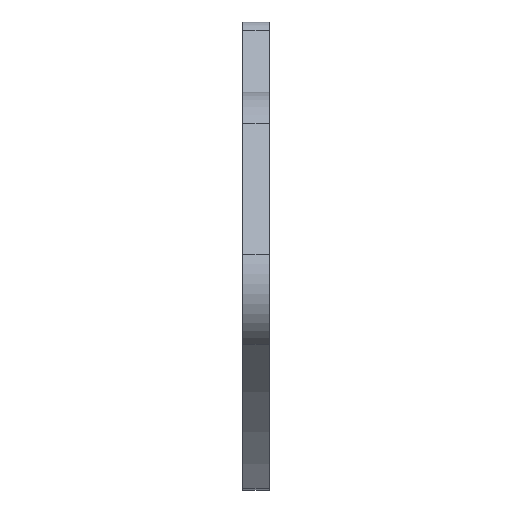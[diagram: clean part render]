
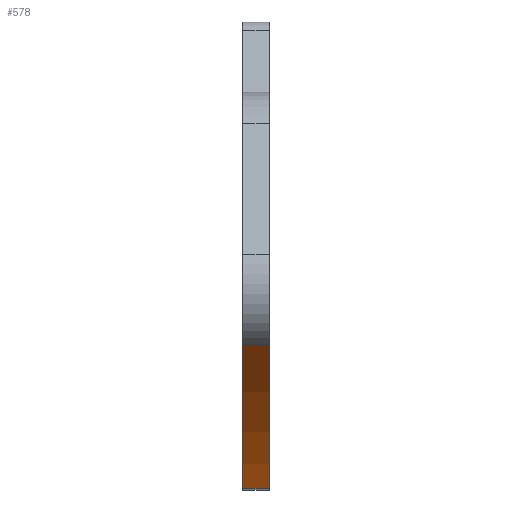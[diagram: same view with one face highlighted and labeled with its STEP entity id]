
A CAD part, left-side view. The second image highlights one B-rep face of the part: STEP entity #578.
In plain terms, the highlighted cylindrical face has radius 372 mm (diameter 744 mm), a partial arc.
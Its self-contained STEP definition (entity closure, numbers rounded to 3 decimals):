
#455=CYLINDRICAL_SURFACE('',#5549,372.);
#507=CIRCLE('',#5523,372.);
#519=CIRCLE('',#5536,372.);
#578=ADVANCED_FACE('',(#943),#455,.T.);
#943=FACE_OUTER_BOUND('',#1264,.T.);
#1264=EDGE_LOOP('',(#2539,#2540,#2541,#2542));
#1623=LINE('',#9211,#1900);
#1624=LINE('',#9212,#1901);
#1900=VECTOR('',#6016,1.);
#1901=VECTOR('',#6017,1.);
#2539=ORIENTED_EDGE('',*,*,#4491,.F.);
#2540=ORIENTED_EDGE('',*,*,#4531,.T.);
#2541=ORIENTED_EDGE('',*,*,#4513,.T.);
#2542=ORIENTED_EDGE('',*,*,#4532,.T.);
#3941=VERTEX_POINT('',#9133);
#3942=VERTEX_POINT('',#9135);
#3962=VERTEX_POINT('',#9177);
#3963=VERTEX_POINT('',#9179);
#4491=EDGE_CURVE('',#3941,#3942,#507,.T.);
#4513=EDGE_CURVE('',#3963,#3962,#519,.T.);
#4531=EDGE_CURVE('',#3941,#3963,#1623,.T.);
#4532=EDGE_CURVE('',#3962,#3942,#1624,.T.);
#5523=AXIS2_PLACEMENT_3D('',#9134,#5946,#5947);
#5536=AXIS2_PLACEMENT_3D('',#9178,#5982,#5983);
#5549=AXIS2_PLACEMENT_3D('',#9213,#6018,#6019);
#5946=DIRECTION('',(0.,1.,0.));
#5947=DIRECTION('',(0.932,0.,-0.363));
#5982=DIRECTION('',(0.,1.,0.));
#5983=DIRECTION('',(0.932,0.,-0.363));
#6016=DIRECTION('',(0.,-1.,0.));
#6017=DIRECTION('',(0.,1.,0.));
#6018=DIRECTION('',(0.,1.,0.));
#6019=DIRECTION('',(0.,0.,1.));
#9133=CARTESIAN_POINT('',(-73.69,-766.,-364.628));
#9134=CARTESIAN_POINT('',(0.,-766.,0.));
#9135=CARTESIAN_POINT('',(-189.166,-766.,-320.313));
#9177=CARTESIAN_POINT('',(-189.166,-774.,-320.313));
#9178=CARTESIAN_POINT('',(0.,-774.,0.));
#9179=CARTESIAN_POINT('',(-73.69,-774.,-364.628));
#9211=CARTESIAN_POINT('',(-73.69,-774.,-364.628));
#9212=CARTESIAN_POINT('',(-189.166,-774.,-320.313));
#9213=CARTESIAN_POINT('',(0.,-774.,0.));
